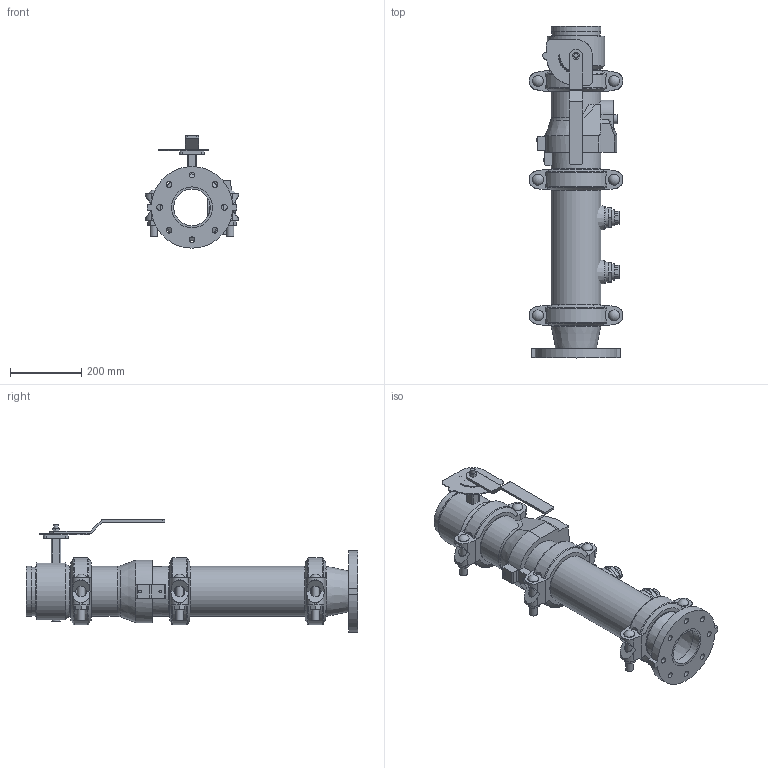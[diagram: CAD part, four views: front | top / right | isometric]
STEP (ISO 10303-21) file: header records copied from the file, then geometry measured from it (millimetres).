
FILE_DESCRIPTION(/* description */ ('VIC DVI PUMP DROP VERT S/390 (OGSxFLG)','CAx-IF Rec.Pracs.---Representation and Presentation of Product Manufacturing Information (PMI)---4.0---2014-10-13'),/* implementation_level */ '2;1');
FILE_NAME(/* name */ 'C:\Users\Vjadhav\AppData\Roaming\Autodesk\ApplicationPlugins\Back Up\Victaulic_IPS_Vertical DVI_PN10_Series 390 (OGSxFLG)\Victaulic_IPS_Vertical DVI_PN10_Series 390 (OGSxFLG)_05.0 (139.7)x04.0 (125x100).stp',/* time_stamp */ '2020-11-09T17:50:31+05:00',/* author */ ('Vjadhav'),/* organization */ ('Victaulic'),/* preprocessor_version */ 'ST-DEVELOPER v17.2',/* originating_system */ 'Autodesk Inventor 2019',/* authorisation */ '');
FILE_SCHEMA (('AP242_MANAGED_MODEL_BASED_3D_ENGINEERING_MIM_LF { 1 0 10303 442 1 1 4 }'));
Length unit declared in the file: inch
Products named in the file (8): 390-05.0 (139.7)x04.0; 741-04.0; 050-05.0 (139.7)x04.0; Pipe-05.0 (139.7)x04.0; 177N-05.0 (139.7); 761-05.0 (139.7); 716-05.0 (139.7); 923-04.0x0.75
Assembly tree (10 placements, depth 2):
  390-05.0 (139.7)x04.0
    741-04.0
    050-05.0 (139.7)x04.0
    177N-05.0 (139.7)  x3
    Pipe-05.0 (139.7)x04.0
    761-05.0 (139.7)
    716-05.0 (139.7)
    923-04.0x0.75  x2
Bounding box: 260.6 x 929.89 x 314.71 mm (x, y, z)
Volume: 7980820.4 mm3; surface area: 1458331.2 mm2
Topology: 10 solids, 11 shells, 610 faces, 1634 edges, 1087 vertices
Faces by surface type: plane 357, cylinder 208, cone 20, torus 17, sphere 6, bspline 2
Full cylindrical faces by diameter (mm): 4.826 x10, 7.62 x2, 8.636 x4, 12.7 x2, 16.002 x8, 21.209 x6, 22.86 x1, 25.4 x1, 26.67 x2, 30.48 x6, 45.974 x4, 55.118 x1, 55.626 x2, 102.26 x1, 110.084 x1, 114.3 x3, 126.594 x1, 127 x3, 128.194 x2, 129.388 x1, 135.484 x7, 139.7 x19, 160.02 x1
Entity records: 12574 total; most frequent: CARTESIAN_POINT 2385, DIRECTION 2093, ORIENTED_EDGE 1924, EDGE_CURVE 962, AXIS2_PLACEMENT_3D 787, VERTEX_POINT 647, LINE 519, VECTOR 519
